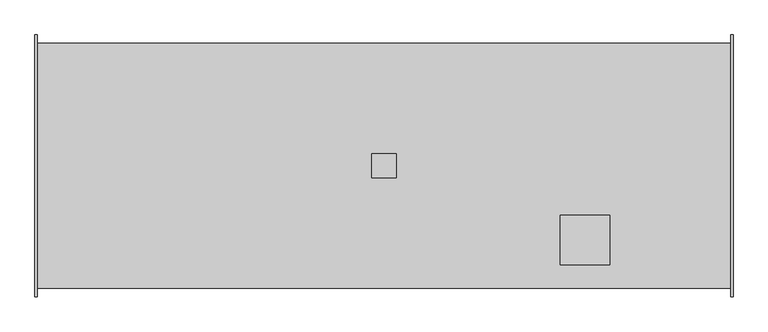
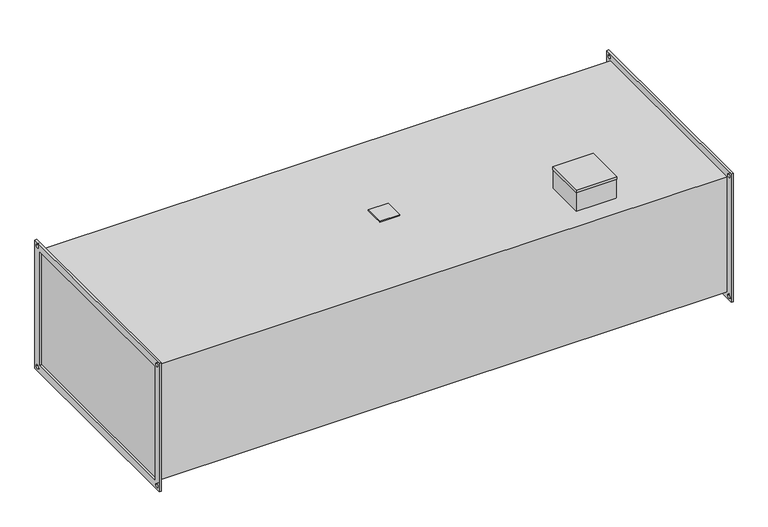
"""IFC4 building model written with IfcOpenShell, lengths in millimetres: damper geometry, KORF_Секция бактерицидной обработки воздуха_SBOW : SBOW 50-30/111."""

from ifc_helpers import new_model, si_unit, point, frame, frame_2d, origin, place, context, project, spatial, polyline, circle_curve, trimmed, segment, composite_curve, outline, extrude, faceted_brep, source, transform, mapped, element, save


def damper_3e07a3b1(model_context):
    return source(origin(), model_context, "Body", "SolidModel", [
        extrude(outline(polyline([(695.0, -25.0), (695.0, 25.0), (745.0, 25.0), (745.0, -25.0), (695.0, -25.0)])), frame((0.0, 0.0, 153.0), z_axis=(0.0, 0.0, 1.0), x_axis=(1.0, 0.0, 0.0)), (0.0, 0.0, 1.0), 2.0),
        faceted_brep([(1186.0, -102.0, 210.0), (1084.0, -102.0, 210.0), (1084.0, -204.0, 210.0), (1186.0, -204.0, 210.0), (1186.0, -102.0, 203.0), (1186.0, -204.0, 203.0), (1084.0, -204.0, 203.0), (1084.0, -102.0, 203.0), (1185.0, -103.0, 203.0), (1085.0, -103.0, 203.0), (1085.0, -203.0, 203.0), (1185.0, -203.0, 203.0), (1185.0, -103.0, 153.0), (1185.0, -203.0, 153.0), (1085.0, -203.0, 153.0), (1085.0, -103.0, 153.0)], [[[0, 1, 2, 3]], [[4, 5, 6, 7], [8, 9, 10, 11]], [[1, 0, 4, 7]], [[2, 1, 7, 6]], [[3, 2, 6, 5]], [[0, 3, 5, 4]], [[12, 13, 14, 15]], [[12, 15, 9, 8]], [[15, 14, 10, 9]], [[14, 13, 11, 10]], [[13, 12, 8, 11]]]),
        extrude(outline(polyline([(-270.0, 170.0), (270.0, 170.0), (270.0, -170.0), (-270.0, -170.0), (-270.0, 170.0)]), holes=[polyline([(-250.0, 150.0), (-250.0, -150.0), (250.0, -150.0), (250.0, 150.0), (-250.0, 150.0)]), composite_curve([segment(trimmed(circle_curve(frame_2d((260.0, 160.0)), 4.5), [point((255.5, 160.0))], [point((264.5, 160.0))], True, "CARTESIAN"), True, "CONTINUOUS"), segment(trimmed(circle_curve(frame_2d((260.0, 160.0)), 4.5), [point((264.5, 160.0))], [point((255.5, 160.0))], True, "CARTESIAN"), True, "CONTINUOUS")], self_intersect=False), composite_curve([segment(trimmed(circle_curve(frame_2d((-260.0, 160.0)), 4.5), [point((-264.5, 160.0))], [point((-255.5, 160.0))], True, "CARTESIAN"), True, "CONTINUOUS"), segment(trimmed(circle_curve(frame_2d((-260.0, 160.0)), 4.5), [point((-255.5, 160.0))], [point((-264.5, 160.0))], True, "CARTESIAN"), True, "CONTINUOUS")], self_intersect=False), composite_curve([segment(trimmed(circle_curve(frame_2d((-260.0, -160.0)), 4.5), [point((-264.5, -160.0))], [point((-255.5, -160.0))], True, "CARTESIAN"), True, "CONTINUOUS"), segment(trimmed(circle_curve(frame_2d((-260.0, -160.0)), 4.5), [point((-255.5, -160.0))], [point((-264.5, -160.0))], True, "CARTESIAN"), True, "CONTINUOUS")], self_intersect=False), composite_curve([segment(trimmed(circle_curve(frame_2d((260.0, -160.0)), 4.5), [point((255.5, -160.0))], [point((264.5, -160.0))], True, "CARTESIAN"), True, "CONTINUOUS"), segment(trimmed(circle_curve(frame_2d((260.0, -160.0)), 4.5), [point((264.5, -160.0))], [point((255.5, -160.0))], True, "CARTESIAN"), True, "CONTINUOUS")], self_intersect=False)]), frame((1435.0, 0.0, 0.0), z_axis=(1.0, 0.0, 0.0), x_axis=(0.0, 1.0, 0.0)), (0.0, 0.0, 1.0), 5.0),
        extrude(outline(polyline([(-270.0, 170.0), (270.0, 170.0), (270.0, -170.0), (-270.0, -170.0), (-270.0, 170.0)]), holes=[polyline([(-250.0, 150.0), (-250.0, -150.0), (250.0, -150.0), (250.0, 150.0), (-250.0, 150.0)]), composite_curve([segment(trimmed(circle_curve(frame_2d((260.0, 160.0)), 4.5), [point((255.5, 160.0))], [point((264.5, 160.0))], True, "CARTESIAN"), True, "CONTINUOUS"), segment(trimmed(circle_curve(frame_2d((260.0, 160.0)), 4.5), [point((264.5, 160.0))], [point((255.5, 160.0))], True, "CARTESIAN"), True, "CONTINUOUS")], self_intersect=False), composite_curve([segment(trimmed(circle_curve(frame_2d((-260.0, 160.0)), 4.5), [point((-264.5, 160.0))], [point((-255.5, 160.0))], True, "CARTESIAN"), True, "CONTINUOUS"), segment(trimmed(circle_curve(frame_2d((-260.0, 160.0)), 4.5), [point((-255.5, 160.0))], [point((-264.5, 160.0))], True, "CARTESIAN"), True, "CONTINUOUS")], self_intersect=False), composite_curve([segment(trimmed(circle_curve(frame_2d((-260.0, -160.0)), 4.5), [point((-264.5, -160.0))], [point((-255.5, -160.0))], True, "CARTESIAN"), True, "CONTINUOUS"), segment(trimmed(circle_curve(frame_2d((-260.0, -160.0)), 4.5), [point((-255.5, -160.0))], [point((-264.5, -160.0))], True, "CARTESIAN"), True, "CONTINUOUS")], self_intersect=False), composite_curve([segment(trimmed(circle_curve(frame_2d((260.0, -160.0)), 4.5), [point((255.5, -160.0))], [point((264.5, -160.0))], True, "CARTESIAN"), True, "CONTINUOUS"), segment(trimmed(circle_curve(frame_2d((260.0, -160.0)), 4.5), [point((264.5, -160.0))], [point((255.5, -160.0))], True, "CARTESIAN"), True, "CONTINUOUS")], self_intersect=False)]), frame((0.0, 0.0, 0.0), z_axis=(1.0, 0.0, 0.0), x_axis=(0.0, 1.0, 0.0)), (0.0, 0.0, 1.0), 5.0),
        extrude(outline(polyline([(1435.0, 253.0), (1435.0, -253.0), (5.0, -253.0), (5.0, 253.0), (1435.0, 253.0)])), frame((0.0, 0.0, -153.0), z_axis=(0.0, 0.0, 1.0), x_axis=(1.0, 0.0, 0.0)), (0.0, 0.0, 1.0), 306.0),
    ])


if __name__ == "__main__":
    model = new_model("IFC4")
    model_context = context("Model", 3, world=origin())
    ifc_project = project(units=[si_unit("LENGTHUNIT", "METRE", prefix="MILLI")], contexts=[model_context])
    site = spatial("IfcSite", under=ifc_project)
    building = spatial("IfcBuilding", under=site)
    placement = place(None, origin())
    damper_shape = damper_3e07a3b1(model_context)
    element("IfcDamper", 1, ObjectType="KORF_Секция бактерицидной обработки воздуха_SBOW : SBOW 50-30/111", at=placement, inside=building, context=model_context, shape_type="MappedRepresentation", body=[
        mapped(damper_shape, transform((0.0, 0.0, 0.0), x_axis=(1.0, 0.0, 0.0), y_axis=(0.0, 1.0, 0.0), z_axis=(0.0, 0.0, 1.0))),
    ])
    save(model, "model.ifc")
